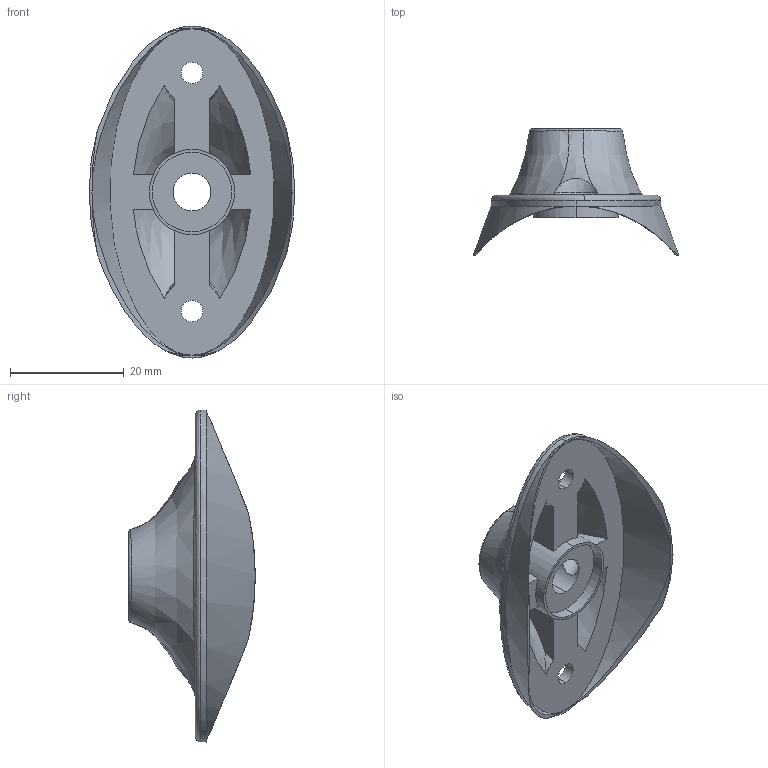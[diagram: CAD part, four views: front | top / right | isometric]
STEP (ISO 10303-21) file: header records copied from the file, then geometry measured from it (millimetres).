
FILE_DESCRIPTION (( 'STEP AP203' ), '1' );
FILE_NAME ('Ôëàíåö MF-6.STEP', '2022-08-12T10:41:44', ( '' ), ( '' ), 'SwSTEP 2.0', 'SolidWorks 2016', '' );
FILE_SCHEMA (( 'CONFIG_CONTROL_DESIGN' ));
Length unit declared in the file: millimetre
Products named in the file (1): 婑鳧氀 MF-6
Bounding box: 36.26 x 22.3 x 58.5 mm (x, y, z)
Volume: 6106.7 mm3; surface area: 5968 mm2
Topology: 1 solids, 1 shells, 71 faces, 175 edges, 109 vertices
Faces by surface type: bspline 25, cylinder 22, plane 15, cone 9
Entity records: 8112 total; most frequent: CARTESIAN_POINT 6613, ORIENTED_EDGE 350, DIRECTION 203, EDGE_CURVE 175, VERTEX_POINT 109, B_SPLINE_CURVE_WITH_KNOTS 95, AXIS2_PLACEMENT_3D 83, EDGE_LOOP 82
